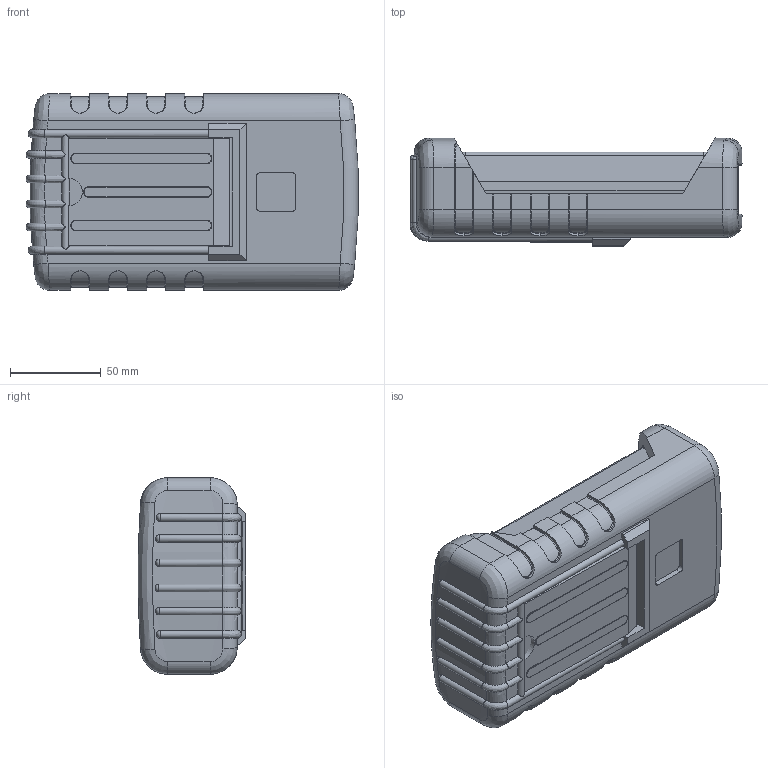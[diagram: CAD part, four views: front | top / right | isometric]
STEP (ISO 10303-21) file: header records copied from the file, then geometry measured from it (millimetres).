
FILE_DESCRIPTION (( 'STEP AP214' ), '1' );
FILE_NAME ('91-43-2A-E-R.STEP', '2020-10-19T15:21:23', ( 'Rudy' ), ( '' ), 'SwSTEP 2.0', 'SolidWorks 2014', '' );
FILE_SCHEMA (( 'AUTOMOTIVE_DESIGN' ));
Length unit declared in the file: millimetre
Products named in the file (9): 90 RBE Boot; RE 90 stand; 90 PCB 2AA; 90 LCD Expander; 2AAdoor; 91 LCD Top; 90-2AA Deep  ; 91-43-2A-E-R
Assembly tree (8 placements, depth 3):
  91-43-2A-E-R
    90-2AA Deep  
    91 LCD Top
    2AAdoor
    90 LCD Expander
    90 PCB 2AA
    90 RBE Boot
      90 RBE Boot
      RE 90 stand
Bounding box: 183.26 x 59.56 x 108.46 mm (x, y, z)
Volume: 409231.5 mm3; surface area: 216316.3 mm2
Topology: 7 solids, 7 shells, 1229 faces, 3257 edges, 2080 vertices
Faces by surface type: plane 677, cylinder 328, bspline 76, cone 68, torus 65, sphere 15
Entity records: 44800 total; most frequent: CARTESIAN_POINT 14426, ORIENTED_EDGE 6470, DIRECTION 6042, EDGE_CURVE 3235, VERTEX_POINT 2072, VECTOR 2044, LINE 2044, AXIS2_PLACEMENT_3D 1999
